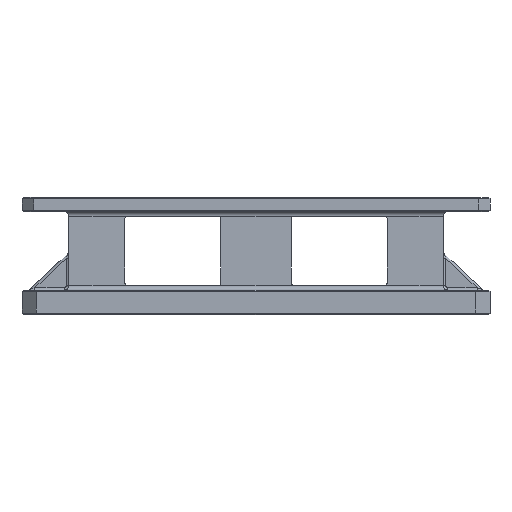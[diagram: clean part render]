
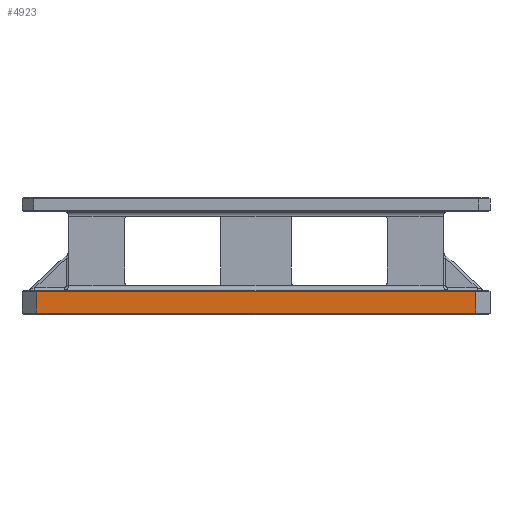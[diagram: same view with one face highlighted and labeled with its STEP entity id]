
A CAD part, front view. The second image highlights one B-rep face of the part: STEP entity #4923.
In plain terms, the highlighted planar face has unit normal (0, -1, 0).
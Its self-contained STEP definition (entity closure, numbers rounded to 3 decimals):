
#573=DIRECTION('',(-1.,0.,0.));
#574=VECTOR('',#573,940.);
#575=CARTESIAN_POINT('',(470.,-250.,-23.));
#576=LINE('',#575,#574);
#577=DIRECTION('',(0.,0.,-1.));
#578=VECTOR('',#577,46.);
#579=CARTESIAN_POINT('',(-470.,-250.,23.));
#580=LINE('',#579,#578);
#581=DIRECTION('',(1.,0.,0.));
#582=VECTOR('',#581,940.);
#583=CARTESIAN_POINT('',(-470.,-250.,23.));
#584=LINE('',#583,#582);
#585=DIRECTION('',(0.,0.,-1.));
#586=VECTOR('',#585,46.);
#587=CARTESIAN_POINT('',(470.,-250.,23.));
#588=LINE('',#587,#586);
#3526=CARTESIAN_POINT('',(470.,-250.,-23.));
#3528=VERTEX_POINT('',#3526);
#3529=CARTESIAN_POINT('',(-470.,-250.,-23.));
#3530=VERTEX_POINT('',#3529);
#3577=CARTESIAN_POINT('',(470.,-250.,23.));
#3578=VERTEX_POINT('',#3577);
#3583=CARTESIAN_POINT('',(-470.,-250.,23.));
#3584=VERTEX_POINT('',#3583);
#4910=CARTESIAN_POINT('',(-500.,-250.,-26.));
#4911=DIRECTION('',(0.,-1.,0.));
#4912=DIRECTION('',(1.,0.,0.));
#4913=AXIS2_PLACEMENT_3D('',#4910,#4911,#4912);
#4914=PLANE('',#4913);
#4915=ORIENTED_EDGE('',*,*,#4901,.T.);
#4917=ORIENTED_EDGE('',*,*,#4916,.F.);
#4919=ORIENTED_EDGE('',*,*,#4918,.T.);
#4920=ORIENTED_EDGE('',*,*,#4875,.T.);
#4921=EDGE_LOOP('',(#4915,#4917,#4919,#4920));
#4922=FACE_OUTER_BOUND('',#4921,.F.);
#4923=ADVANCED_FACE('',(#4922),#4914,.T.);
#4875=EDGE_CURVE('',#3578,#3528,#588,.T.);
#4901=EDGE_CURVE('',#3528,#3530,#576,.T.);
#4916=EDGE_CURVE('',#3584,#3530,#580,.T.);
#4918=EDGE_CURVE('',#3584,#3578,#584,.T.);
